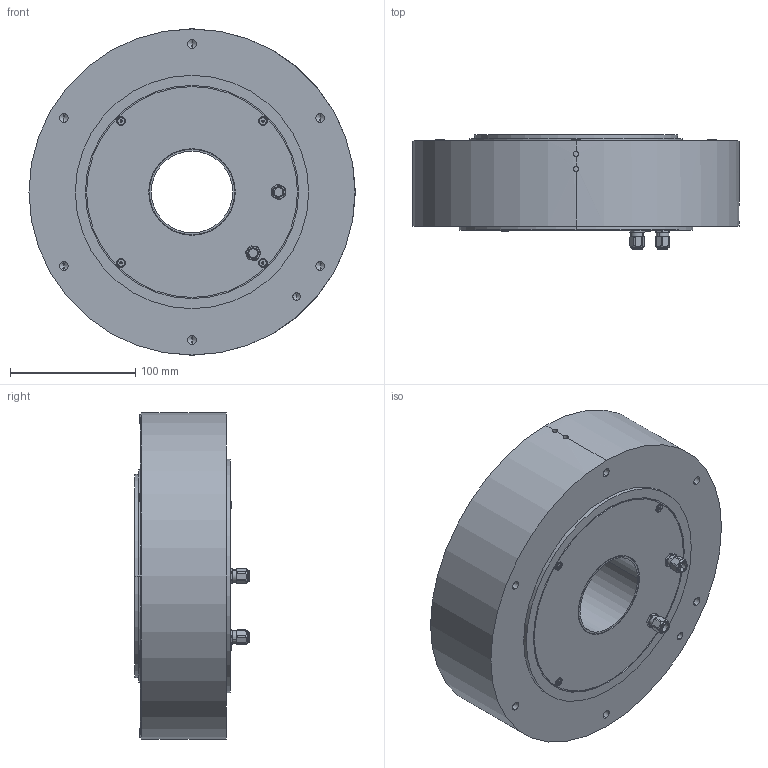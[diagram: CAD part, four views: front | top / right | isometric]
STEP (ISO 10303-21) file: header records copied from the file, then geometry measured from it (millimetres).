
FILE_DESCRIPTION (( 'STEP AP214' ), '1' );
FILE_NAME ('ND250-70-LS(ABS).step', '2025-03-27T00:25:53', ( '' ), ( '' ), 'SwSTEP 2.0', 'SolidWorks 2024', '' );
FILE_SCHEMA (( 'AUTOMOTIVE_DESIGN' ));
Length unit declared in the file: millimetre
Products named in the file (1): ND250-70-LS(ABS)
Bounding box: 260 x 91.3 x 260 mm (x, y, z)
Surface area: 362958.8 mm2 (no closed solid volume)
Topology: 0 solids, 17 shells, 613 faces, 1562 edges, 972 vertices
Faces by surface type: cylinder 357, cone 130, plane 86, sphere 20, torus 20
Entity records: 20108 total; most frequent: CARTESIAN_POINT 5314, DIRECTION 3134, ORIENTED_EDGE 2994, EDGE_CURVE 1498, AXIS2_PLACEMENT_3D 1300, VERTEX_POINT 972, EDGE_LOOP 715, CIRCLE 686
